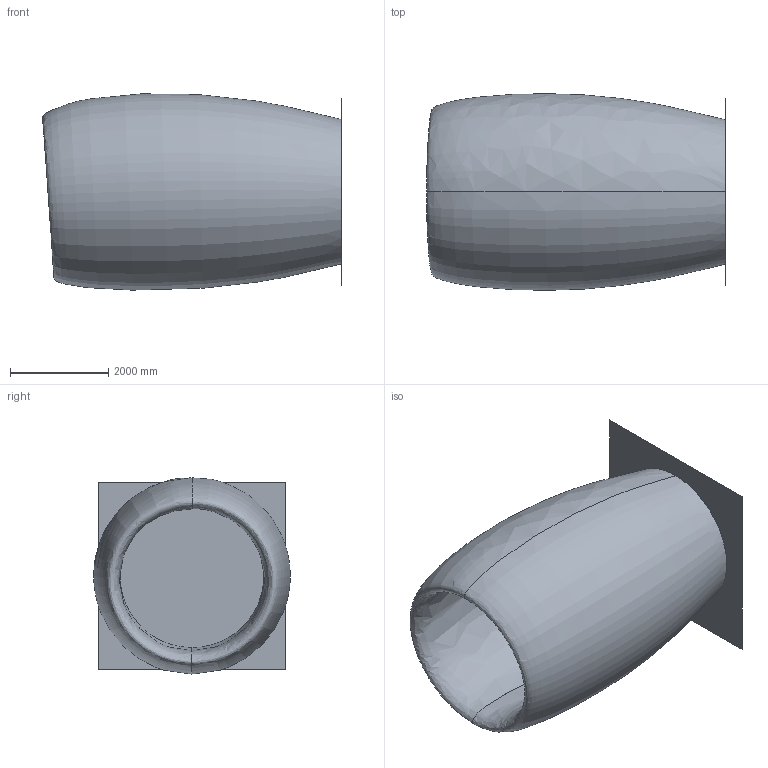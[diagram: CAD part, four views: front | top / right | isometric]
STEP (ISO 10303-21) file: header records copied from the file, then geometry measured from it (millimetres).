
FILE_DESCRIPTION(('CATIA V5 STEP Exchange'),'2;1');
FILE_NAME('C:\Users\dsl0381\Desktop\nacl01-fromcatia.stp','2022-05-12T06:33:14+00:00',('none'),('none'),'CATIA Version 5-6 Release 2018 SP6 HF6','CATIA V5 STEP AP203','none');
FILE_SCHEMA(('CONFIG_CONTROL_DESIGN'));
Length unit declared in the file: millimetre
Products named in the file (1): 67201142
Bounding box: 6080.85 x 3999.83 x 3992.44 mm (x, y, z)
Surface area: 146243086.5 mm2 (no closed solid volume)
Topology: 0 solids, 3 shells, 3 faces, 12 edges, 12 vertices
Faces by surface type: bspline 2, plane 1
Entity records: 24947 total; most frequent: CARTESIAN_POINT 24824, ORIENTED_EDGE 12, EDGE_CURVE 12, VERTEX_POINT 12, B_SPLINE_CURVE_WITH_KNOTS 8, DIRECTION 6, VECTOR 4, CC_DESIGN_PERSON_AND_ORGANIZATION_ASSIGNMENT 4
